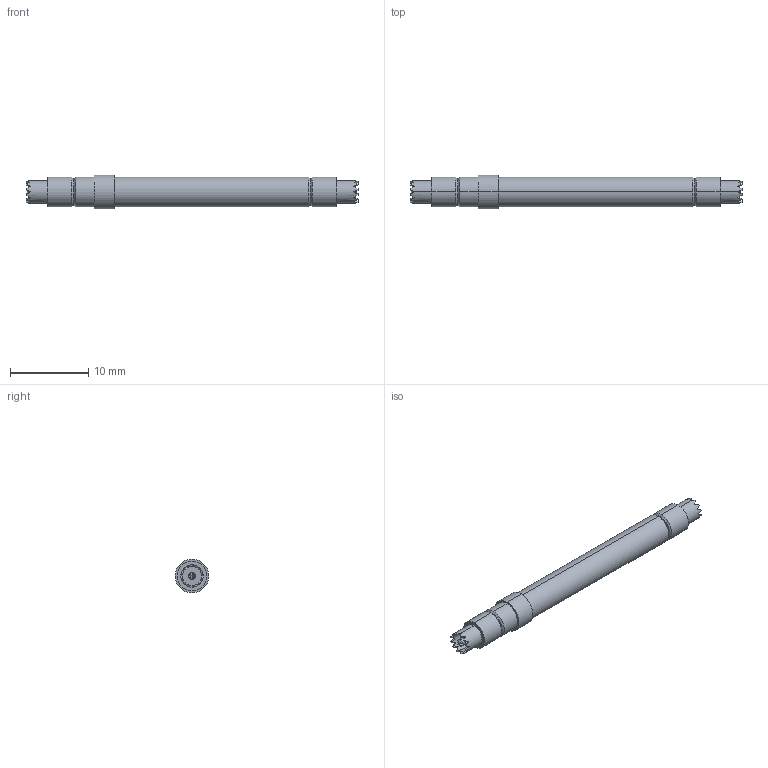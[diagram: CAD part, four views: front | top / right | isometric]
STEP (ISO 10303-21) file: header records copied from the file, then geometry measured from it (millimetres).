
FILE_DESCRIPTION (( 'STEP AP203' ), '1' );
FILE_NAME ('101097-000.STEP', '2022-11-10T04:19:09', ( '' ), ( '' ), 'SwSTEP 2.0', 'SolidWorks 2022', '' );
FILE_SCHEMA (( 'CONFIG_CONTROL_DESIGN' ));
Length unit declared in the file: inch
Products named in the file (1): 101097-000
Bounding box: 42.49 x 4.32 x 4.32 mm (x, y, z)
Volume: 437.7 mm3; surface area: 578.5 mm2
Topology: 1 solids, 1 shells, 146 faces, 366 edges, 230 vertices
Faces by surface type: plane 104, cylinder 26, torus 8, cone 8
Entity records: 4377 total; most frequent: CARTESIAN_POINT 1103, ORIENTED_EDGE 732, DIRECTION 624, EDGE_CURVE 366, AXIS2_PLACEMENT_3D 231, VERTEX_POINT 230, LINE 162, VECTOR 162
